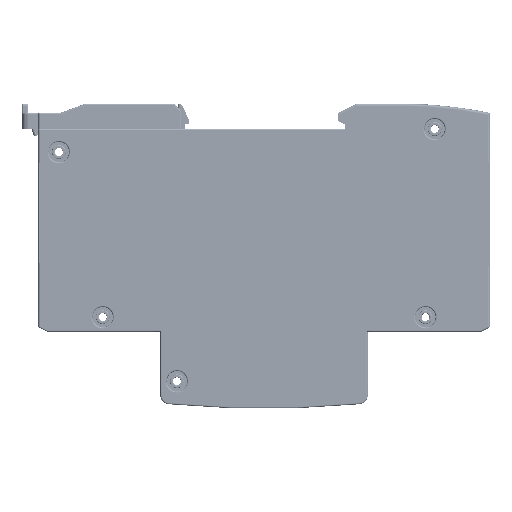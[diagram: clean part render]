
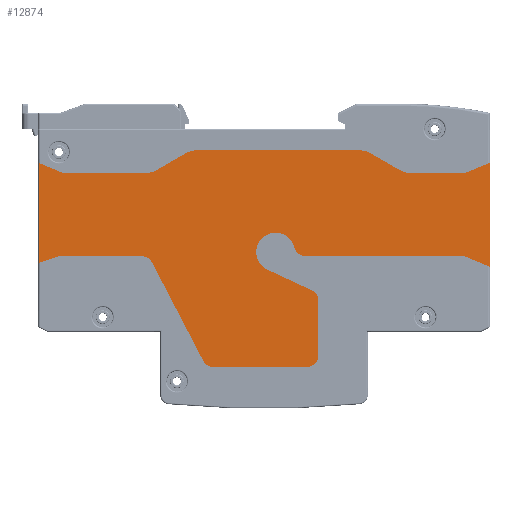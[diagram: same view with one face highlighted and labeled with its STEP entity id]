
A CAD part, front view. The second image highlights one B-rep face of the part: STEP entity #12874.
In plain terms, the highlighted planar face has unit normal (0, -1, 0).
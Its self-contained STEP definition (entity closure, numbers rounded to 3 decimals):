
#1787=DIRECTION('',(-1.,0.,0.));
#1788=VECTOR('',#1787,17.983);
#1789=CARTESIAN_POINT('',(-26.517,-16.3,16.4));
#1790=LINE('',#1789,#1788);
#1801=CARTESIAN_POINT('',(-10.984,-16.3,-5.1));
#1802=DIRECTION('',(0.,-1.,0.));
#1803=DIRECTION('',(-0.887,0.,-0.462));
#1804=AXIS2_PLACEMENT_3D('',#1801,#1802,#1803);
#1809=DIRECTION('',(0.462,0.,-0.887));
#1810=VECTOR('',#1809,24.025);
#1811=CARTESIAN_POINT('',(-24.299,-16.3,15.053));
#1812=LINE('',#1811,#1810);
#1816=CARTESIAN_POINT('',(-26.517,-16.3,13.9));
#1817=DIRECTION('',(0.,1.,0.));
#1818=DIRECTION('',(0.,0.,1.));
#1819=AXIS2_PLACEMENT_3D('',#1816,#1817,#1818);
#1824=DIRECTION('',(0.949,0.,0.316));
#1825=VECTOR('',#1824,4.638);
#1826=CARTESIAN_POINT('',(-48.9,-16.3,14.933));
#1827=LINE('',#1826,#1825);
#1831=DIRECTION('',(-0.923,0.,0.386));
#1832=VECTOR('',#1831,5.854);
#1833=CARTESIAN_POINT('',(-43.499,-16.3,34.4));
#1834=LINE('',#1833,#1832);
#1838=CARTESIAN_POINT('',(-25.84,-16.3,39.4));
#1839=DIRECTION('',(0.,1.,0.));
#1840=DIRECTION('',(0.5,0.,-0.866));
#1841=AXIS2_PLACEMENT_3D('',#1838,#1839,#1840);
#1846=DIRECTION('',(-0.866,0.,-0.5));
#1847=VECTOR('',#1846,7.321);
#1848=CARTESIAN_POINT('',(-17.,-16.3,38.73));
#1849=LINE('',#1848,#1847);
#1853=CARTESIAN_POINT('',(-14.5,-16.3,34.4));
#1854=DIRECTION('',(0.,-1.,0.));
#1855=DIRECTION('',(0.,0.,1.));
#1856=AXIS2_PLACEMENT_3D('',#1853,#1854,#1855);
#1861=CARTESIAN_POINT('',(20.6,-16.3,34.4));
#1862=DIRECTION('',(0.,-1.,0.));
#1863=DIRECTION('',(0.5,0.,0.866));
#1864=AXIS2_PLACEMENT_3D('',#1861,#1862,#1863);
#1869=DIRECTION('',(-0.866,0.,0.5));
#1870=VECTOR('',#1869,7.321);
#1871=CARTESIAN_POINT('',(29.44,-16.3,35.07));
#1872=LINE('',#1871,#1870);
#1876=CARTESIAN_POINT('',(31.94,-16.3,39.4));
#1877=DIRECTION('',(0.,1.,0.));
#1878=DIRECTION('',(0.,0.,-1.));
#1879=AXIS2_PLACEMENT_3D('',#1876,#1877,#1878);
#1884=DIRECTION('',(-0.923,0.,-0.386));
#1885=VECTOR('',#1884,5.853);
#1886=CARTESIAN_POINT('',(48.9,-16.3,36.658));
#1887=LINE('',#1886,#1885);
#1891=DIRECTION('',(0.923,0.,-0.386));
#1892=VECTOR('',#1891,5.854);
#1893=CARTESIAN_POINT('',(43.499,-16.3,16.4));
#1894=LINE('',#1893,#1892);
#1898=CARTESIAN_POINT('',(9.007,-16.3,18.9));
#1899=DIRECTION('',(0.,-1.,0.));
#1900=DIRECTION('',(-0.971,0.,-0.239));
#1901=AXIS2_PLACEMENT_3D('',#1898,#1899,#1900);
#1906=CARTESIAN_POINT('',(2.5,-16.3,17.302));
#1907=DIRECTION('',(0.,1.,0.));
#1908=DIRECTION('',(0.423,0.,0.906));
#1909=AXIS2_PLACEMENT_3D('',#1906,#1907,#1908);
#1914=CARTESIAN_POINT('',(2.5,-16.3,17.302));
#1915=DIRECTION('',(0.,1.,0.));
#1916=DIRECTION('',(-1.,0.,0.));
#1917=AXIS2_PLACEMENT_3D('',#1914,#1915,#1916);
#1922=CARTESIAN_POINT('',(2.5,-16.3,17.302));
#1923=DIRECTION('',(0.,1.,0.));
#1924=DIRECTION('',(-0.423,0.,-0.906));
#1925=AXIS2_PLACEMENT_3D('',#1922,#1923,#1924);
#1930=DIRECTION('',(-0.906,0.,0.423));
#1931=VECTOR('',#1930,10.627);
#1932=CARTESIAN_POINT('',(10.357,-16.3,9.004));
#1933=LINE('',#1932,#1931);
#1937=CARTESIAN_POINT('',(9.3,-16.3,6.739));
#1938=DIRECTION('',(0.,-1.,0.));
#1939=DIRECTION('',(1.,0.,0.));
#1940=AXIS2_PLACEMENT_3D('',#1937,#1938,#1939);
#1945=DIRECTION('',(0.,0.,1.));
#1946=VECTOR('',#1945,11.839);
#1947=CARTESIAN_POINT('',(11.8,-16.3,-5.1));
#1948=LINE('',#1947,#1946);
#1952=CARTESIAN_POINT('',(9.3,-16.3,-5.1));
#1953=DIRECTION('',(0.,-1.,0.));
#1954=DIRECTION('',(0.,0.,-1.));
#1955=AXIS2_PLACEMENT_3D('',#1952,#1953,#1954);
#1995=DIRECTION('',(-1.,0.,0.));
#1996=VECTOR('',#1995,20.284);
#1997=CARTESIAN_POINT('',(9.3,-16.3,-7.6));
#1998=LINE('',#1997,#1996);
#2065=DIRECTION('',(-1.,0.,0.));
#2066=VECTOR('',#2065,34.493);
#2067=CARTESIAN_POINT('',(43.499,-16.3,16.4));
#2068=LINE('',#2067,#2066);
#2129=DIRECTION('',(0.,0.,-1.));
#2130=VECTOR('',#2129,22.516);
#2131=CARTESIAN_POINT('',(48.9,-16.3,36.658));
#2132=LINE('',#2131,#2130);
#2293=DIRECTION('',(1.,0.,0.));
#2294=VECTOR('',#2293,11.56);
#2295=CARTESIAN_POINT('',(31.94,-16.3,34.4));
#2296=LINE('',#2295,#2294);
#2314=DIRECTION('',(1.,0.,0.));
#2315=VECTOR('',#2314,35.1);
#2316=CARTESIAN_POINT('',(-14.5,-16.3,39.4));
#2317=LINE('',#2316,#2315);
#2363=DIRECTION('',(1.,0.,0.));
#2364=VECTOR('',#2363,17.66);
#2365=CARTESIAN_POINT('',(-43.499,-16.3,34.4));
#2366=LINE('',#2365,#2364);
#2417=DIRECTION('',(0.,0.,1.));
#2418=VECTOR('',#2417,21.725);
#2419=CARTESIAN_POINT('',(-48.9,-16.3,14.933));
#2420=LINE('',#2419,#2418);
#10536=CARTESIAN_POINT('',(-14.5,-16.3,39.4));
#10537=CARTESIAN_POINT('',(20.6,-16.3,39.4));
#10538=VERTEX_POINT('',#10536);
#10539=VERTEX_POINT('',#10537);
#10540=CARTESIAN_POINT('',(-17.,-16.3,38.73));
#10541=VERTEX_POINT('',#10540);
#10542=CARTESIAN_POINT('',(-13.201,-16.3,-6.255));
#10543=CARTESIAN_POINT('',(-10.984,-16.3,-7.6));
#10544=VERTEX_POINT('',#10542);
#10545=VERTEX_POINT('',#10543);
#10546=CARTESIAN_POINT('',(9.3,-16.3,-7.6));
#10547=VERTEX_POINT('',#10546);
#10548=CARTESIAN_POINT('',(11.8,-16.3,-5.1));
#10549=VERTEX_POINT('',#10548);
#10550=CARTESIAN_POINT('',(11.8,-16.3,6.739));
#10551=VERTEX_POINT('',#10550);
#10552=CARTESIAN_POINT('',(10.357,-16.3,9.004));
#10553=VERTEX_POINT('',#10552);
#10554=CARTESIAN_POINT('',(0.725,-16.3,13.496));
#10555=VERTEX_POINT('',#10554);
#10556=CARTESIAN_POINT('',(-1.7,-16.3,17.302));
#10557=VERTEX_POINT('',#10556);
#10558=CARTESIAN_POINT('',(4.275,-16.3,21.109));
#10559=VERTEX_POINT('',#10558);
#10560=CARTESIAN_POINT('',(6.579,-16.3,18.304));
#10561=VERTEX_POINT('',#10560);
#10562=CARTESIAN_POINT('',(9.007,-16.3,16.4));
#10563=VERTEX_POINT('',#10562);
#10564=CARTESIAN_POINT('',(43.499,-16.3,16.4));
#10565=VERTEX_POINT('',#10564);
#10566=CARTESIAN_POINT('',(48.9,-16.3,14.142));
#10567=VERTEX_POINT('',#10566);
#10568=CARTESIAN_POINT('',(48.9,-16.3,36.658));
#10569=VERTEX_POINT('',#10568);
#10570=CARTESIAN_POINT('',(43.5,-16.3,34.4));
#10571=VERTEX_POINT('',#10570);
#10572=CARTESIAN_POINT('',(31.94,-16.3,34.4));
#10573=VERTEX_POINT('',#10572);
#10574=CARTESIAN_POINT('',(29.44,-16.3,35.07));
#10575=VERTEX_POINT('',#10574);
#10576=CARTESIAN_POINT('',(23.1,-16.3,38.73));
#10577=VERTEX_POINT('',#10576);
#10578=CARTESIAN_POINT('',(-23.34,-16.3,35.07));
#10579=VERTEX_POINT('',#10578);
#10580=CARTESIAN_POINT('',(-25.84,-16.3,34.4));
#10581=VERTEX_POINT('',#10580);
#10582=CARTESIAN_POINT('',(-43.499,-16.3,34.4));
#10583=VERTEX_POINT('',#10582);
#10584=CARTESIAN_POINT('',(-48.9,-16.3,36.658));
#10585=VERTEX_POINT('',#10584);
#10586=CARTESIAN_POINT('',(-48.9,-16.3,14.933));
#10587=VERTEX_POINT('',#10586);
#10588=CARTESIAN_POINT('',(-44.5,-16.3,16.4));
#10589=VERTEX_POINT('',#10588);
#10590=CARTESIAN_POINT('',(-26.517,-16.3,16.4));
#10591=VERTEX_POINT('',#10590);
#10592=CARTESIAN_POINT('',(-24.297,-16.3,15.05));
#10593=VERTEX_POINT('',#10592);
#12810=CARTESIAN_POINT('',(0.,-16.3,0.));
#12811=DIRECTION('',(0.,-1.,0.));
#12812=DIRECTION('',(1.,0.,0.));
#12813=AXIS2_PLACEMENT_3D('',#12810,#12811,#12812);
#12814=PLANE('',#12813);
#12816=ORIENTED_EDGE('',*,*,#12815,.F.);
#12818=ORIENTED_EDGE('',*,*,#12817,.F.);
#12820=ORIENTED_EDGE('',*,*,#12819,.F.);
#12821=ORIENTED_EDGE('',*,*,#12793,.T.);
#12823=ORIENTED_EDGE('',*,*,#12822,.F.);
#12825=ORIENTED_EDGE('',*,*,#12824,.T.);
#12827=ORIENTED_EDGE('',*,*,#12826,.F.);
#12829=ORIENTED_EDGE('',*,*,#12828,.T.);
#12831=ORIENTED_EDGE('',*,*,#12830,.F.);
#12833=ORIENTED_EDGE('',*,*,#12832,.F.);
#12835=ORIENTED_EDGE('',*,*,#12834,.F.);
#12837=ORIENTED_EDGE('',*,*,#12836,.T.);
#12839=ORIENTED_EDGE('',*,*,#12838,.F.);
#12841=ORIENTED_EDGE('',*,*,#12840,.F.);
#12843=ORIENTED_EDGE('',*,*,#12842,.F.);
#12845=ORIENTED_EDGE('',*,*,#12844,.T.);
#12847=ORIENTED_EDGE('',*,*,#12846,.F.);
#12849=ORIENTED_EDGE('',*,*,#12848,.T.);
#12851=ORIENTED_EDGE('',*,*,#12850,.F.);
#12853=ORIENTED_EDGE('',*,*,#12852,.T.);
#12855=ORIENTED_EDGE('',*,*,#12854,.F.);
#12857=ORIENTED_EDGE('',*,*,#12856,.F.);
#12859=ORIENTED_EDGE('',*,*,#12858,.F.);
#12861=ORIENTED_EDGE('',*,*,#12860,.F.);
#12863=ORIENTED_EDGE('',*,*,#12862,.F.);
#12865=ORIENTED_EDGE('',*,*,#12864,.F.);
#12867=ORIENTED_EDGE('',*,*,#12866,.F.);
#12869=ORIENTED_EDGE('',*,*,#12868,.F.);
#12871=ORIENTED_EDGE('',*,*,#12870,.T.);
#12872=EDGE_LOOP('',(#12816,#12818,#12820,#12821,#12823,#12825,#12827,#12829,
#12831,#12833,#12835,#12837,#12839,#12841,#12843,#12845,#12847,#12849,#12851,
#12853,#12855,#12857,#12859,#12861,#12863,#12865,#12867,#12869,#12871));
#12873=FACE_OUTER_BOUND('',#12872,.F.);
#12874=ADVANCED_FACE('',(#12873),#12814,.T.);
#1805=CIRCLE('',#1804,2.5);
#1820=CIRCLE('',#1819,2.5);
#1842=CIRCLE('',#1841,5.);
#1857=CIRCLE('',#1856,5.);
#1865=CIRCLE('',#1864,5.);
#1880=CIRCLE('',#1879,5.);
#1902=CIRCLE('',#1901,2.5);
#1910=CIRCLE('',#1909,4.2);
#1918=CIRCLE('',#1917,4.2);
#1926=CIRCLE('',#1925,4.2);
#1941=CIRCLE('',#1940,2.5);
#1956=CIRCLE('',#1955,2.5);
#12793=EDGE_CURVE('',#10591,#10589,#1790,.T.);
#12815=EDGE_CURVE('',#10544,#10545,#1805,.T.);
#12817=EDGE_CURVE('',#10593,#10544,#1812,.T.);
#12819=EDGE_CURVE('',#10591,#10593,#1820,.T.);
#12822=EDGE_CURVE('',#10587,#10589,#1827,.T.);
#12824=EDGE_CURVE('',#10587,#10585,#2420,.T.);
#12826=EDGE_CURVE('',#10583,#10585,#1834,.T.);
#12828=EDGE_CURVE('',#10583,#10581,#2366,.T.);
#12830=EDGE_CURVE('',#10579,#10581,#1842,.T.);
#12832=EDGE_CURVE('',#10541,#10579,#1849,.T.);
#12834=EDGE_CURVE('',#10538,#10541,#1857,.T.);
#12836=EDGE_CURVE('',#10538,#10539,#2317,.T.);
#12838=EDGE_CURVE('',#10577,#10539,#1865,.T.);
#12840=EDGE_CURVE('',#10575,#10577,#1872,.T.);
#12842=EDGE_CURVE('',#10573,#10575,#1880,.T.);
#12844=EDGE_CURVE('',#10573,#10571,#2296,.T.);
#12846=EDGE_CURVE('',#10569,#10571,#1887,.T.);
#12848=EDGE_CURVE('',#10569,#10567,#2132,.T.);
#12850=EDGE_CURVE('',#10565,#10567,#1894,.T.);
#12852=EDGE_CURVE('',#10565,#10563,#2068,.T.);
#12854=EDGE_CURVE('',#10561,#10563,#1902,.T.);
#12856=EDGE_CURVE('',#10559,#10561,#1910,.T.);
#12858=EDGE_CURVE('',#10557,#10559,#1918,.T.);
#12860=EDGE_CURVE('',#10555,#10557,#1926,.T.);
#12862=EDGE_CURVE('',#10553,#10555,#1933,.T.);
#12864=EDGE_CURVE('',#10551,#10553,#1941,.T.);
#12866=EDGE_CURVE('',#10549,#10551,#1948,.T.);
#12868=EDGE_CURVE('',#10547,#10549,#1956,.T.);
#12870=EDGE_CURVE('',#10547,#10545,#1998,.T.);
